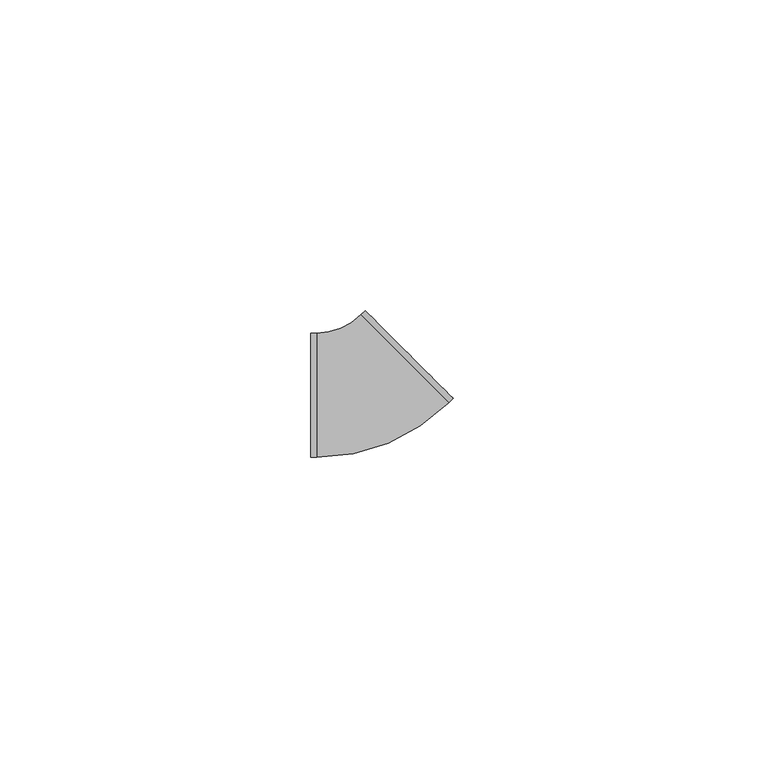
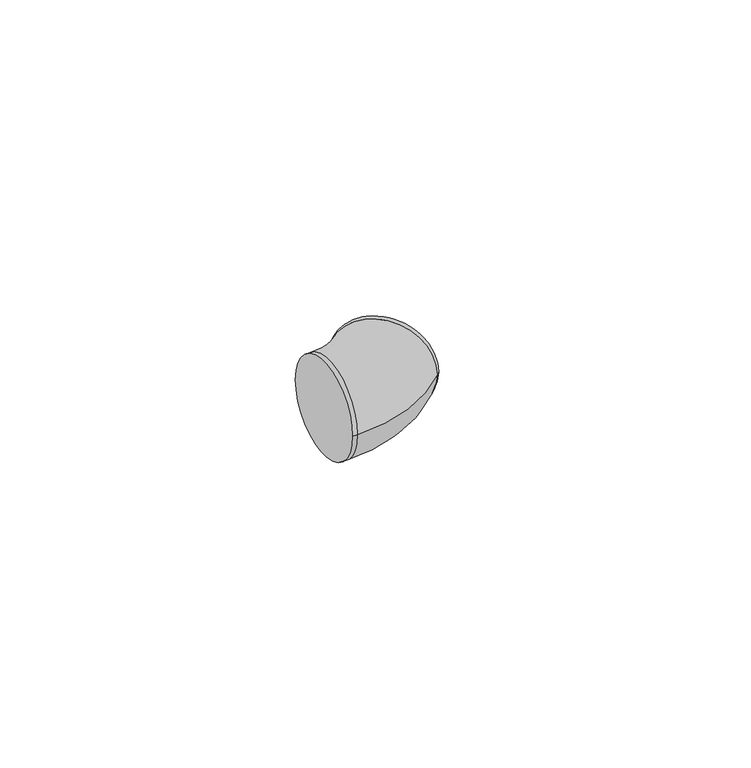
"""IFC4 building model written with IfcOpenShell, lengths in millimetres: cable carrier fitting geometry, ADSK_Поворот_Минимальный размер : Неспецифицируемый."""

from ifc_helpers import new_model, si_unit, point, frame, origin, place, context, project, spatial, circle_curve, ellipse_curve, trimmed, source, transform, mapped, element, save
from ifc_brep_helpers import plane_surface, cylinder_surface, revolved_surface, advanced_brep


def cable_carrier_fitting_f3a31543(model_context):
    return source(origin(), model_context, "Body", "AdvancedBrep", [
        advanced_brep(
        [(-9.2901102, -10.0, 0.0), (-9.2901102, 10.0, 0.0), (-8.2901102, -10.0, 0.0), (-8.2901102, 10.0, 0.0), (-1.2155195, 12.9324568, 0.0), (12.9336619, -1.2026295, 0.0), (13.6404162, -0.4951704, 0.0), (-0.5087652, 13.6399159, 0.0)],
        [
            (0, 1, circle_curve(frame((-9.2901102, 0.0, 0.0), z_axis=(-1.0, -4.92260399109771e-12, 0.0), x_axis=(-4.92260399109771e-12, 1.0, 0.0)), 10.0)),
            (1, 0, circle_curve(frame((-9.2901102, 0.0, 0.0), z_axis=(-1.0, -4.92260399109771e-12, 0.0), x_axis=(-4.92260399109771e-12, 1.0, 0.0)), 10.0)),
            (0, 2),
            (2, 3, circle_curve(frame((-8.2901102, 0.0, 0.0), z_axis=(-1.0, -4.92260399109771e-12, 0.0), x_axis=(-4.92260399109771e-12, 1.0, 0.0)), 10.0)),
            (3, 1),
            (3, 2, circle_curve(frame((-8.2901102, 0.0, 0.0), z_axis=(-1.0, -4.92260399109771e-12, 0.0), x_axis=(-4.92260399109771e-12, 1.0, 0.0)), 10.0)),
            (4, 3, circle_curve(frame((-8.2901102, 20.0, 0.0), z_axis=(0.0, 0.0, -1.0), x_axis=(0.0, -1.0, 0.0)), 10.0)),
            (2, 5, circle_curve(frame((-8.2901102, 20.0, 0.0), z_axis=(0.0, 0.0, 1.0), x_axis=(0.0, -1.0, 0.0)), 30.0)),
            (5, 4, circle_curve(frame((5.8590712, 5.8649137, 0.0), z_axis=(-0.706754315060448, -0.7074590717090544, 0.0), x_axis=(-0.7074590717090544, 0.706754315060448, 0.0)), 10.0)),
            (4, 5, circle_curve(frame((5.8590712, 5.8649137, 0.0), z_axis=(-0.706754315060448, -0.7074590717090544, 0.0), x_axis=(-0.7074590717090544, 0.706754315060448, 0.0)), 10.0)),
            (6, 7, circle_curve(frame((6.5658255, 6.5723728, 0.0), z_axis=(0.7067543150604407, 0.7074590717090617, 0.0), x_axis=(-0.7074590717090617, 0.7067543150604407, 0.0)), 10.0)),
            (7, 6, circle_curve(frame((6.5658255, 6.5723728, 0.0), z_axis=(0.7067543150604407, 0.7074590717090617, 0.0), x_axis=(-0.7074590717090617, 0.7067543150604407, 0.0)), 10.0)),
            (5, 6),
            (7, 4),
        ],
        [
            plane_surface(frame((-9.2901102, 0.0, 0.0), z_axis=(-1.0, -4.92260399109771e-12, 0.0), x_axis=(0.0, 0.0, 1.0))),
            cylinder_surface(frame((-9.2901102, 0.0, 0.0), z_axis=(-1.0, -4.92260399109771e-12, 0.0), x_axis=(-4.92260399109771e-12, 1.0, 0.0)), 10.0),
            revolved_surface(trimmed(ellipse_curve(frame((-8.2901102, 0.0, 0.0), z_axis=(-1.0, 0.0, 0.0), x_axis=(0.0, 1.0, 0.0)), 10.0, 10.0), [point((-8.2901102, -10.0, 0.0))], [point((-8.2901102, 10.0, 0.0))], True, "CARTESIAN"), (-8.2901102, 20.0, 0.0), (0.0, 0.0, 1.0)),
            revolved_surface(trimmed(ellipse_curve(frame((-8.2901102, 0.0, 0.0), z_axis=(-1.0, 0.0, 0.0), x_axis=(0.0, 1.0, 0.0)), 10.0, 10.0), [point((-8.2901102, 10.0, 0.0))], [point((-8.2901102, -10.0, 0.0))], True, "CARTESIAN"), (-8.2901102, 20.0, 0.0), (0.0, 0.0, 1.0)),
            plane_surface(frame((6.5658255, 6.5723728, 0.0), z_axis=(0.7067543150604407, 0.7074590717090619, 0.0), x_axis=(0.0, 0.0, 1.0))),
            cylinder_surface(frame((5.8590712, 5.8649137, 0.0), z_axis=(-0.7067543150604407, -0.7074590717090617, 0.0), x_axis=(-0.7074590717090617, 0.7067543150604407, 0.0)), 10.0),
        ],
        [
            (0, [[1, 2]]),
            (1, [[-1, 3, 4, 5]]),
            (1, [[-2, -5, 6, -3]]),
            (2, [[7, -4, 8, 9]]),
            (3, [[-8, -6, -7, 10]]),
            (4, [[11, 12]]),
            (5, [[-9, 13, -12, 14]]),
            (5, [[-10, -14, -11, -13]]),
        ],
    ),
    ])


if __name__ == "__main__":
    model = new_model("IFC4")
    model_context = context("Model", 3, world=origin())
    ifc_project = project(units=[si_unit("LENGTHUNIT", "METRE", prefix="MILLI")], contexts=[model_context])
    site = spatial("IfcSite", under=ifc_project)
    building = spatial("IfcBuilding", under=site)
    placement = place(None, origin())
    cable_carrier_fitting_shape = cable_carrier_fitting_f3a31543(model_context)
    element("IfcCableCarrierFitting", 1, ObjectType="ADSK_Поворот_Минимальный размер : Неспецифицируемый", at=placement, inside=building, context=model_context, shape_type="MappedRepresentation", body=[
        mapped(cable_carrier_fitting_shape, transform((0.0, 0.0, 0.0), x_axis=(1.0, 0.0, 0.0), y_axis=(0.0, 1.0, 0.0), z_axis=(0.0, 0.0, 1.0))),
    ])
    save(model, "model.ifc")
